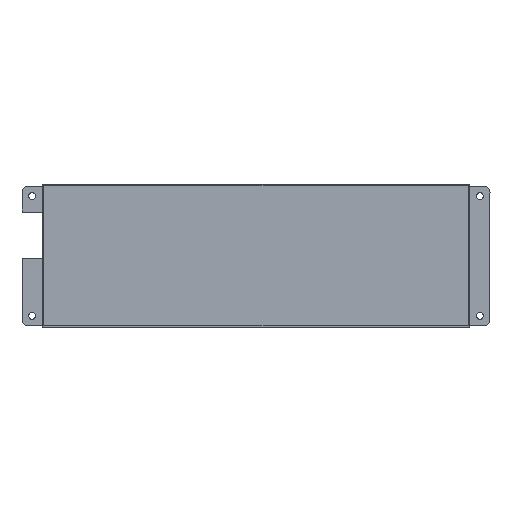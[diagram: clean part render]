
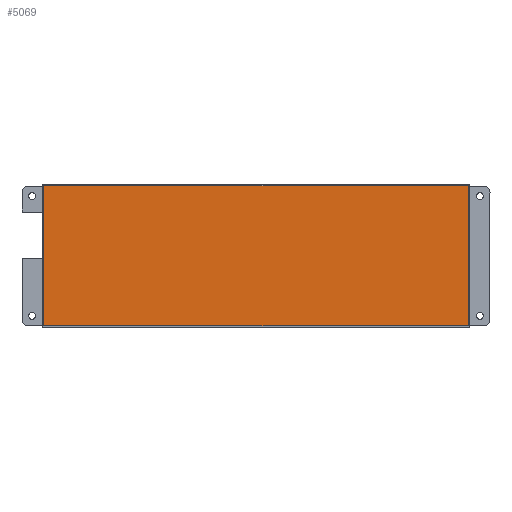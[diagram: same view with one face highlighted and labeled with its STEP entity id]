
A CAD part, top view. The second image highlights one B-rep face of the part: STEP entity #5069.
In plain terms, the highlighted planar face has unit normal (0, 0, 1).
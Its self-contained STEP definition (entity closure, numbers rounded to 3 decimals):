
#1632=DIRECTION('',(0.,1.,0.));
#1633=VECTOR('',#1632,67.9);
#1634=CARTESIAN_POINT('',(102.99,-33.95,2.18));
#1635=LINE('',#1634,#1633);
#1636=DIRECTION('',(1.,0.,0.));
#1637=VECTOR('',#1636,205.93);
#1638=CARTESIAN_POINT('',(-102.94,-33.95,2.18));
#1639=LINE('',#1638,#1637);
#1640=DIRECTION('',(0.,-1.,0.));
#1641=VECTOR('',#1640,67.9);
#1642=CARTESIAN_POINT('',(-102.94,33.95,2.18));
#1643=LINE('',#1642,#1641);
#1644=DIRECTION('',(-1.,0.,0.));
#1645=VECTOR('',#1644,205.93);
#1646=CARTESIAN_POINT('',(102.99,33.95,2.18));
#1647=LINE('',#1646,#1645);
#2126=CARTESIAN_POINT('',(102.99,-33.95,2.18));
#2127=CARTESIAN_POINT('',(102.99,33.95,2.18));
#2128=VERTEX_POINT('',#2126);
#2129=VERTEX_POINT('',#2127);
#2130=CARTESIAN_POINT('',(-102.94,33.95,2.18));
#2131=VERTEX_POINT('',#2130);
#2132=CARTESIAN_POINT('',(-102.94,-33.95,2.18));
#2133=VERTEX_POINT('',#2132);
#5058=CARTESIAN_POINT('',(-102.64,33.65,2.18));
#5059=DIRECTION('',(0.,0.,1.));
#5060=DIRECTION('',(0.,-1.,0.));
#5061=AXIS2_PLACEMENT_3D('',#5058,#5059,#5060);
#5062=PLANE('',#5061);
#5063=ORIENTED_EDGE('',*,*,#5010,.F.);
#5064=ORIENTED_EDGE('',*,*,#5025,.F.);
#5065=ORIENTED_EDGE('',*,*,#5039,.F.);
#5066=ORIENTED_EDGE('',*,*,#5052,.F.);
#5067=EDGE_LOOP('',(#5063,#5064,#5065,#5066));
#5068=FACE_OUTER_BOUND('',#5067,.F.);
#5010=EDGE_CURVE('',#2128,#2129,#1635,.T.);
#5025=EDGE_CURVE('',#2133,#2128,#1639,.T.);
#5039=EDGE_CURVE('',#2131,#2133,#1643,.T.);
#5052=EDGE_CURVE('',#2129,#2131,#1647,.T.);
#5069=ADVANCED_FACE('',(#5068),#5062,.T.);
